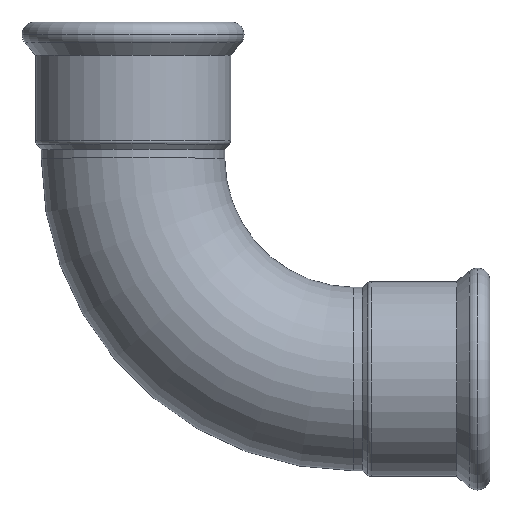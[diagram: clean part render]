
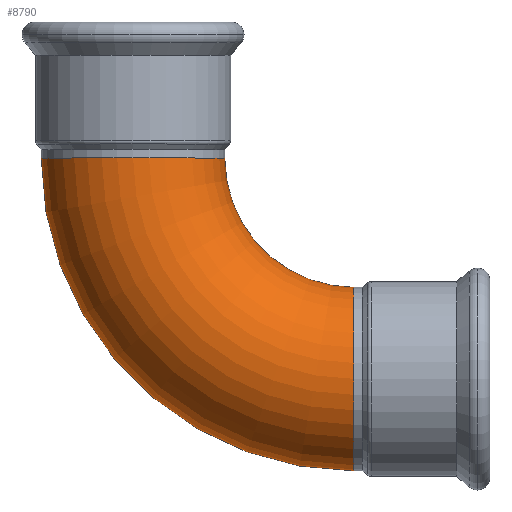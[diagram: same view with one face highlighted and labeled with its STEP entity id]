
A CAD part, top view. The second image highlights one B-rep face of the part: STEP entity #8790.
In plain terms, the highlighted toroidal (fillet/blend) face has major radius 65 mm and minor radius 27 mm.
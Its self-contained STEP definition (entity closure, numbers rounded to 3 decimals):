
#4690=CARTESIAN_POINT('',(57.344,191.195,
0.));
#4700=VERTEX_POINT('',#4690);
#4840=CARTESIAN_POINT('',(3.344,191.195,0.));
#4850=VERTEX_POINT('',#4840);
#6380=CARTESIAN_POINT('',(95.344,99.195,
0.));
#6390=VERTEX_POINT('',#6380);
#6470=CARTESIAN_POINT('',(95.344,153.195,
0.));
#6480=VERTEX_POINT('',#6470);
#6510=CARTESIAN_POINT('',(95.344,126.195,0.));
#6520=DIRECTION('',(1.,0.,0.));
#6530=DIRECTION('',(0.,-1.,0.));
#6540=AXIS2_PLACEMENT_3D('',#6510,#6520,#6530);
#6550=CIRCLE('',#6540,27.);
#7950=CARTESIAN_POINT('',(95.344,191.195,0.));
#7960=DIRECTION('',(0.,0.,1.));
#7970=DIRECTION('',(-1.,0.,0.));
#7980=AXIS2_PLACEMENT_3D('',#7950,#7960,#7970);
#7990=TOROIDAL_SURFACE('',#7980,65.,27.);
#8000=CARTESIAN_POINT('',(95.344,191.195,
0.));
#8010=DIRECTION('',(0.,0.,1.));
#8020=DIRECTION('',(-1.,0.,0.));
#8030=AXIS2_PLACEMENT_3D('',#8000,#8010,#8020);
#8040=CIRCLE('',#8030,38.);
#8050=EDGE_CURVE('',#4700,#6480,#8040,.T.);
#8090=CARTESIAN_POINT('',(95.344,191.195,
0.));
#8100=DIRECTION('',(0.,0.,1.));
#8110=DIRECTION('',(-1.,0.,0.));
#8120=AXIS2_PLACEMENT_3D('',#8090,#8100,#8110);
#8130=CIRCLE('',#8120,92.);
#8140=EDGE_CURVE('',#4850,#6390,#8130,.T.);
#8660=CARTESIAN_POINT('',(30.344,191.195,0.));
#8670=DIRECTION('',(0.,-1.,0.));
#8680=DIRECTION('',(-1.,0.,0.));
#8690=AXIS2_PLACEMENT_3D('',#8660,#8670,#8680);
#8700=CIRCLE('',#8690,27.);
#8710=EDGE_CURVE('',#4700,#4850,#8700,.T.);
#8720=ORIENTED_EDGE('',*,*,#8710,.T.);
#8730=ORIENTED_EDGE('',*,*,#8050,.F.);
#8740=EDGE_CURVE('',#6480,#6390,#6550,.T.);
#8750=ORIENTED_EDGE('',*,*,#8740,.F.);
#8760=ORIENTED_EDGE('',*,*,#8140,.T.);
#8770=EDGE_LOOP('',(#8760,#8750,#8730,#8720));
#8780=FACE_OUTER_BOUND('',#8770,.T.);
#8790=ADVANCED_FACE('',(#8780),#7990,.T.);
